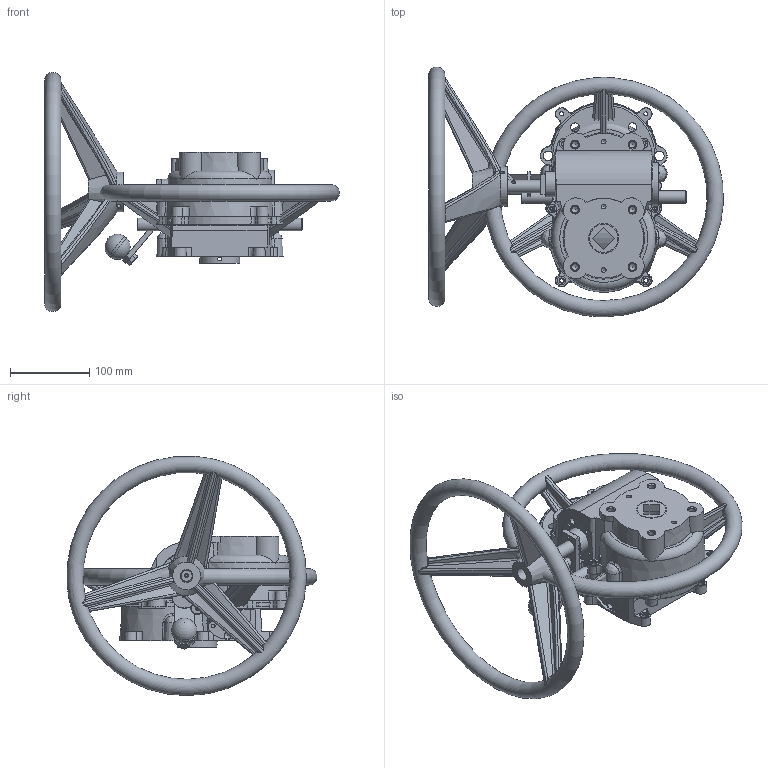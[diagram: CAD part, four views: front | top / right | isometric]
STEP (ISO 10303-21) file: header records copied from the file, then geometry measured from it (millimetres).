
FILE_DESCRIPTION( ( 'Unknown' ), '1' );
FILE_NAME( '//192.168.120.14/cadfiles/3D Models for Customers/K BOX/103 KBOX LH Gearbox Assembly.stp', 'Unknown', ( 'Unknown' ), ( 'Unknown' ), 'PSStep 13.0', 'Unknown', ' ' );
FILE_SCHEMA( ( 'AUTOMOTIVE_DESIGN { 1 0 10303 214 1 1 1 1 }' ) );
Length unit declared in the file: millimetre
Products named in the file (15): 93000010 Declutch Lever Assembly; Assem1; 93007001 RH Lever for K-Box; 654055 Ball Knob 32dia RS686-036; M8x16 hex.hd.; 93008 Detent Housing; 93009 Detent; 93010 Flat Knob; 93-004-005 Model 10 Base Plate M.C; 93023001 Handwheel 300 M.C; 93-003-026 Model 10 K-Box Housing M.C; 93015 Gearbox End Plate; DUMMY ECCENTRIC; 93014 Gearbox Shaft; DUMMY 10 SHAFT
Bounding box: 371.15 x 314.59 x 301.22 mm (x, y, z)
Volume: 3074740.7 mm3; surface area: 676643.7 mm2
Topology: 32 solids, 32 shells, 1200 faces, 3136 edges, 1992 vertices
Faces by surface type: plane 334, cylinder 327, cone 225, bspline 198, torus 82, sphere 34
Full cylindrical faces by diameter (mm): 1.3 x4, 3.3 x4, 4.2 x3, 4.4 x6, 5 x41, 5.001 x3, 5.1 x3, 6 x8, 6.5 x20, 6.8 x3, 8 x6, 8.01 x8, 8.1 x3, 8.376 x8, 8.5 x8, 8.7 x3, 11 x20, 11.875 x3, 12 x11, 12.02 x3, 16 x5, 16.1 x2, 16.5 x3, 19 x2, 26.5 x2, 32 x9, 35.7 x2, 38 x2, 41 x2, 42.1 x2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
Entity records: 32318 total; most frequent: CARTESIAN_POINT 15012, DIRECTION 2581, ORIENTED_EDGE 2490, EDGE_CURVE 1245, AXIS2_PLACEMENT_3D 1151, VERTEX_POINT 878, EDGE_LOOP 818, FACE_OUTER_BOUND 666
